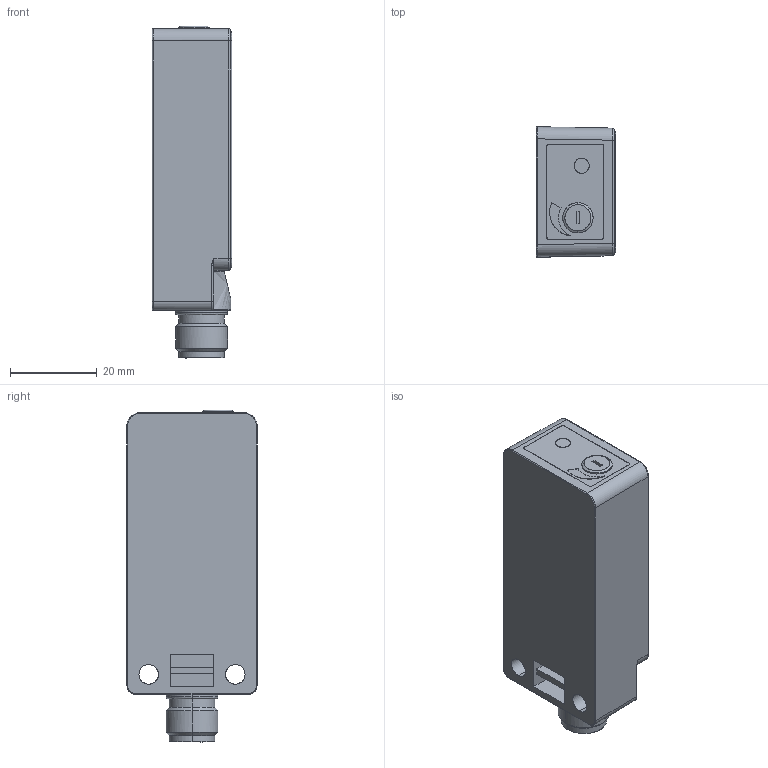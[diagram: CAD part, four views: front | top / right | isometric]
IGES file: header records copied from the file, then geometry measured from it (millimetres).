
Start section: Comment
Global section: file name: UEDK_30_Pot_S14.igs; native system:  By Spatial Corp.; preprocessor: XPlus PS/IGES 3.0; author: Author; organization: Title; date: 20031009.155729; units: inch
Bounding box: 18.4 x 30.02 x 76.65 mm (x, y, z)
Surface area: 8491.6 mm2 (no closed solid volume)
Topology: 0 solids, 0 shells, 180 faces, 850 edges, 844 vertices
Faces by surface type: bspline 180
